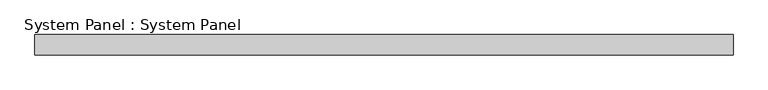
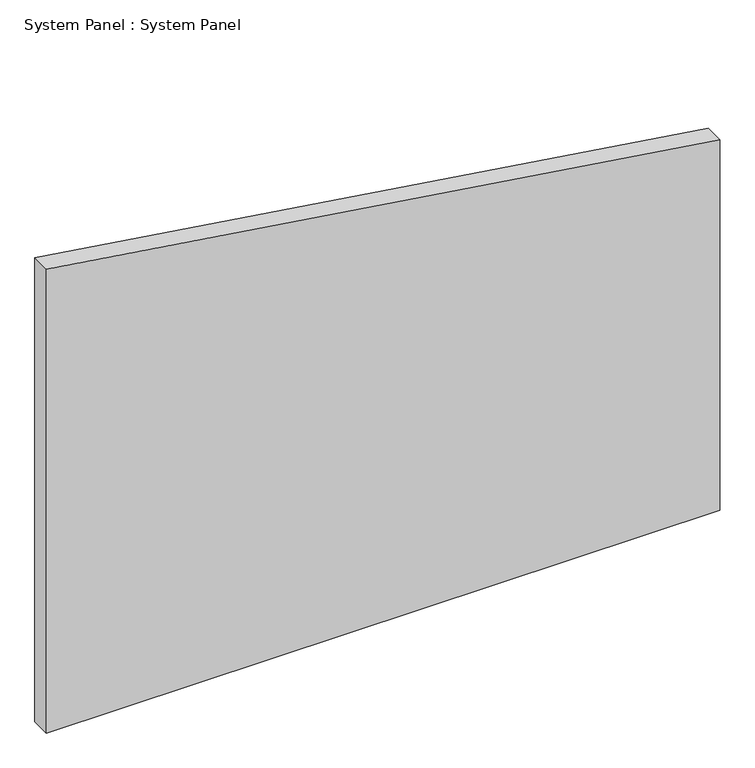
"""IFC4 building model written with IfcOpenShell, lengths in millimetres: plate geometry, System Panel : System Panel."""

import ifcopenshell
import ifcopenshell.guid

model = None  # the IFC model being written
_history = None  # IfcOwnerHistory: only IFC2X3 demands one
_inside = {}  # id of a spatial element -> (the spatial element, [elements in it])
_under = {}  # id of a project, library or spatial element -> (it, [spatial elements below it])
_declared = {}  # id of a project -> (the project, [libraries it declares])
_typed = {}  # id of a type object -> (the type object, [elements of that type])
_made_of = {}  # id of a material, layer set ... -> (it, [elements and type objects made of it])


def new_model(schema):
    """Start an empty IFC model of exactly this schema.

    Asked for "IFC4X3", IfcOpenShell would pick the latest addendum, in which some entities
    have other attributes; the version numbers below select the first issue.
    IFC2X3 requires an IfcOwnerHistory on every rooted entity: one is made here for all.
    """
    global model, _history
    if schema == "IFC4X3":
        model = ifcopenshell.file(schema_version=(4, 3, 0, 0))
    else:
        model = ifcopenshell.file(schema=schema)
    _inside.clear()
    _under.clear()
    _declared.clear()
    _typed.clear()
    _made_of.clear()
    _history = None
    if model.schema == "IFC2X3":
        org = make("IfcOrganization", Name="unknown")
        user = make(
            "IfcPersonAndOrganization",
            ThePerson=make("IfcPerson", FamilyName="unknown"),
            TheOrganization=org,
        )
        app = make(
            "IfcApplication",
            ApplicationDeveloper=org,
            Version="unknown",
            ApplicationFullName="unknown",
            ApplicationIdentifier="unknown",
        )
        _history = make(
            "IfcOwnerHistory",
            OwningUser=user,
            OwningApplication=app,
            ChangeAction="ADDED",
            CreationDate=0,
        )
    return model


def make(cls, **values):
    """One entity of the class cls with the attributes given. An attribute that is None is left unset."""
    return model.create_entity(
        cls, **{name: value for name, value in values.items() if value is not None}
    )


def rooted(cls, **values):
    """An entity with a GlobalId (a new one), such as an element, a storey or a relation."""
    return make(cls, GlobalId=ifcopenshell.guid.new(), OwnerHistory=_history, **values)


def si_unit(unit_type, name, prefix=None):
    """IfcSIUnit, for example si_unit("LENGTHUNIT", "METRE", prefix="MILLI")."""
    return make("IfcSIUnit", UnitType=unit_type, Prefix=prefix, Name=name)


def assignment(units):
    """IfcUnitAssignment: the units of a project."""
    return None if units is None else make("IfcUnitAssignment", Units=units)


def point(xyz):
    """IfcCartesianPoint."""
    return None if xyz is None else make("IfcCartesianPoint", Coordinates=xyz)


def direction(xyz):
    """IfcDirection."""
    return None if xyz is None else make("IfcDirection", DirectionRatios=xyz)


def frame(location, z_axis=None, x_axis=None):
    """IfcAxis2Placement3D, a coordinate frame: its origin and axes. An axis left out is left unset."""
    return make(
        "IfcAxis2Placement3D",
        Location=point(location),
        Axis=direction(z_axis),
        RefDirection=direction(x_axis),
    )


def origin():
    """The frame at (0, 0, 0) with its axes left unset."""
    return frame((0.0, 0.0, 0.0))


def place(relative_to, where):
    """IfcLocalPlacement: puts the frame where relative to a parent placement (None: the world)."""
    return make(
        "IfcLocalPlacement", PlacementRelTo=relative_to, RelativePlacement=where
    )


def context(
    kind, dimensions, precision=None, world=None, true_north=None, identifier=None
):
    """IfcGeometricRepresentationContext, for example the 3D "Model" context."""
    return make(
        "IfcGeometricRepresentationContext",
        ContextIdentifier=identifier,
        ContextType=kind,
        CoordinateSpaceDimension=dimensions,
        Precision=precision,
        WorldCoordinateSystem=world,
        TrueNorth=true_north,
    )


def project(units=None, contexts=None):
    """IfcProject with its units and contexts."""
    return rooted(
        "IfcProject",
        Name="project",
        RepresentationContexts=contexts,
        UnitsInContext=assignment(units),
    )


def spatial(cls, under=None, at=None, **own):
    """A site, building, storey or space (cls), placed at a placement, below another one or the project."""
    s = rooted(cls, ObjectPlacement=at, **own)
    if under is not None:
        _under.setdefault(under.id(), (under, []))[1].append(s)
    return s


def polyline(points):
    """IfcPolyline through the points."""
    return make("IfcPolyline", Points=[point(p) for p in points])


def outline(outer, holes=None, kind="AREA"):
    """IfcArbitraryClosedProfileDef: a profile drawn as a closed curve; with holes, ...WithVoids."""
    if holes is None:
        return make("IfcArbitraryClosedProfileDef", ProfileType=kind, OuterCurve=outer)
    return make(
        "IfcArbitraryProfileDefWithVoids",
        ProfileType=kind,
        OuterCurve=outer,
        InnerCurves=holes,
    )


def extrude(swept, where, along, depth):
    """IfcExtrudedAreaSolid: the profile swept, set in the frame where, extruded along a direction by depth."""
    return make(
        "IfcExtrudedAreaSolid",
        SweptArea=swept,
        Position=where,
        ExtrudedDirection=direction(along),
        Depth=depth,
    )


def shape(context_of_items, identifier, shape_type, items):
    """IfcShapeRepresentation: the items that make up one representation, for example the "Body"."""
    return make(
        "IfcShapeRepresentation",
        ContextOfItems=context_of_items,
        RepresentationIdentifier=identifier,
        RepresentationType=shape_type,
        Items=items,
    )


def source(mapping_origin, context_of_items, identifier, shape_type, items):
    """IfcRepresentationMap: a shape defined once, which mapped items show again and again."""
    return make(
        "IfcRepresentationMap",
        MappingOrigin=mapping_origin,
        MappedRepresentation=shape(context_of_items, identifier, shape_type, items),
    )


def transform(
    local_origin,
    x_axis=None,
    y_axis=None,
    z_axis=None,
    scale=None,
    scale2=None,
    scale3=None,
    uniform=True,
):
    """IfcCartesianTransformationOperator3D, or its non-uniform kind. x_axis, y_axis, z_axis: its Axis1, 2, 3."""
    if uniform:
        return make(
            "IfcCartesianTransformationOperator3D",
            Axis1=direction(x_axis),
            Axis2=direction(y_axis),
            LocalOrigin=point(local_origin),
            Scale=scale,
            Axis3=direction(z_axis),
        )
    return make(
        "IfcCartesianTransformationOperator3DnonUniform",
        Axis1=direction(x_axis),
        Axis2=direction(y_axis),
        LocalOrigin=point(local_origin),
        Scale=scale,
        Axis3=direction(z_axis),
        Scale2=scale2,
        Scale3=scale3,
    )


def mapped(mapping_source, mapping_target):
    """IfcMappedItem: shows the shape of a source again, moved by a transform."""
    return make(
        "IfcMappedItem", MappingSource=mapping_source, MappingTarget=mapping_target
    )


def made_of(thing, what):
    """Note that an element or type object is made of a material, layer set ...; save() writes the relation."""
    if what is not None:
        _made_of.setdefault(what.id(), (what, []))[1].append(thing)
    return thing


def element(
    cls,
    number,
    at=None,
    inside=None,
    cuts=None,
    type_object=None,
    material=None,
    context=None,
    identifier="Body",
    shape_type=None,
    held_by="IfcProductDefinitionShape",
    body=None,
    shapes=None,
    **own,
):
    """One element of the class cls, such as IfcWall. Its Tag is "e" and its number.

    at: its placement. inside: the storey or other place that contains it. cuts: it is an
    opening in that element (IfcRelVoidsElement). A single representation is given by context,
    identifier, shape_type and body (its items); several are given by shapes. held_by: the class
    of the entity that holds the representations. save() writes the other relations.
    """
    e = rooted(cls, Tag="e%d" % number, ObjectPlacement=at, **own)
    if body is not None:
        shapes = [shape(context, identifier, shape_type, body)]
    if shapes is not None:
        e.Representation = make(held_by, Representations=shapes)
    if inside is not None:
        _inside.setdefault(inside.id(), (inside, []))[1].append(e)
    if cuts is not None:
        rooted(
            "IfcRelVoidsElement", RelatingBuildingElement=cuts, RelatedOpeningElement=e
        )
    if type_object is not None:
        _typed.setdefault(type_object.id(), (type_object, []))[1].append(e)
    return made_of(e, material)


def aggregate(whole, parts):
    """IfcRelAggregates: a whole, such as a stair, and the parts it consists of."""
    return rooted("IfcRelAggregates", RelatingObject=whole, RelatedObjects=parts)


def save(model, path):
    """Write the relations noted so far, then the file.

    IfcRelAggregates (storeys below a building ...), IfcRelContainedInSpatialStructure (elements
    in a storey), IfcRelDefinesByType, IfcRelAssociatesMaterial and IfcRelDeclares: one each for
    every whole, place, type object, material and project.
    """
    for whole, parts in _under.values():
        aggregate(whole, parts)
    for where, things in _inside.values():
        rooted(
            "IfcRelContainedInSpatialStructure",
            RelatedElements=things,
            RelatingStructure=where,
        )
    for kind, things in _typed.values():
        rooted("IfcRelDefinesByType", RelatedObjects=things, RelatingType=kind)
    for what, things in _made_of.values():
        rooted("IfcRelAssociatesMaterial", RelatedObjects=things, RelatingMaterial=what)
    for by, libraries in _declared.values():
        rooted("IfcRelDeclares", RelatingContext=by, RelatedDefinitions=libraries)
    model.write(path)


def system_panel_system_panel_1b25f975(model_context):
    return source(origin(), model_context, "Body", "SweptSolid", [
        extrude(outline(polyline([(0.0, 1735.6576526), (2019.606707, 1735.6576526), (2528.2426002, -1735.6576526), (0.0, -1735.6576526), (0.0, 1735.6576526)])), frame((0.0, -50.8, 0.0), z_axis=(0.0, 1.0, 0.0), x_axis=(0.0, 0.0, 1.0)), (0.0, 0.0, 1.0), 101.6),
    ])


if __name__ == "__main__":
    model = new_model("IFC4")
    model_context = context("Model", 3, world=origin())
    ifc_project = project(units=[si_unit("LENGTHUNIT", "METRE", prefix="MILLI")], contexts=[model_context])
    site = spatial("IfcSite", under=ifc_project)
    building = spatial("IfcBuilding", under=site)
    placement = place(None, origin())
    system_panel_system_panel_shape = system_panel_system_panel_1b25f975(model_context)
    element("IfcPlate", 1, ObjectType="System Panel : System Panel", at=placement, inside=building, context=model_context, shape_type="MappedRepresentation", body=[
        mapped(system_panel_system_panel_shape, transform((0.0, 0.0, 0.0), x_axis=(1.0, 0.0, 0.0), y_axis=(0.0, 1.0, 0.0), z_axis=(0.0, 0.0, 1.0))),
    ])
    save(model, "model.ifc")
